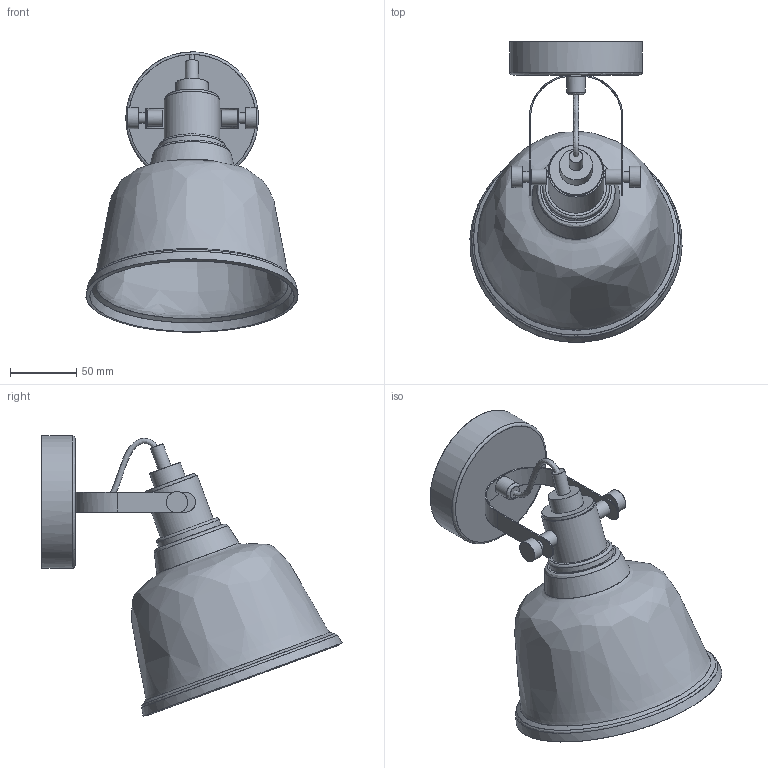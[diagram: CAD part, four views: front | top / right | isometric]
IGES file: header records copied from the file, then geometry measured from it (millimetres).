
Start section: SolidWorks IGES file using NURBS representation for surfaces
Global section: file name: Z:\Modele 3D_WWW\_KOLEKCJE WWW\AMALFI\9155\AMALFI-9155.IGS; native system: SolidWorks 2021; preprocessor: SolidWorks 2021; author: gabriela.tworek; date: 220307.083531; units: millimetre
Bounding box: 159.87 x 226.3 x 211.29 mm (x, y, z)
Surface area: 150025.1 mm2 (no closed solid volume)
Topology: 0 solids, 0 shells, 73 faces, 304 edges, 272 vertices
Faces by surface type: bspline 73
